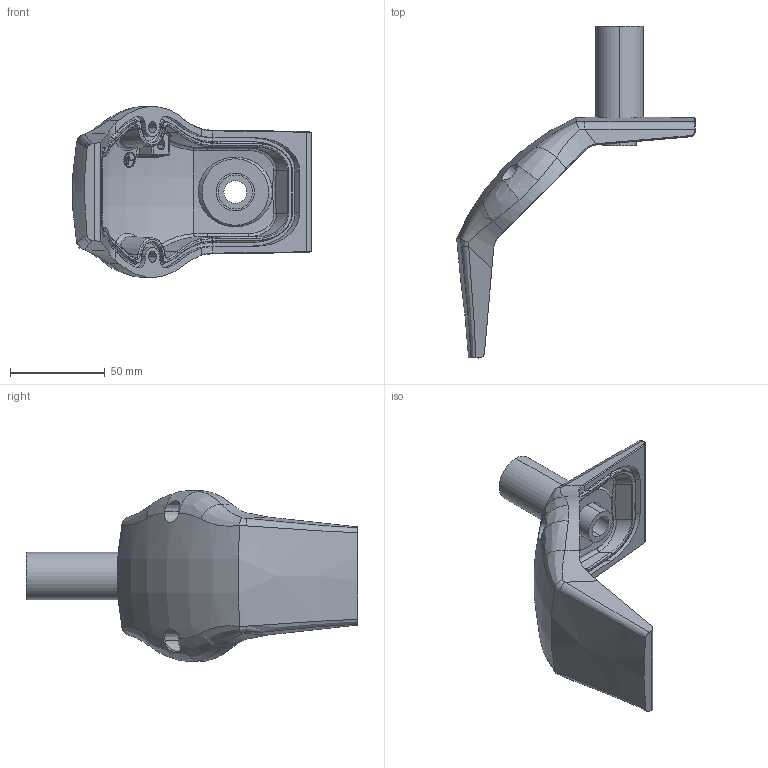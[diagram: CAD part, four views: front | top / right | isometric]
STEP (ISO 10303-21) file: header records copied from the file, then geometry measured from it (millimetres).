
FILE_DESCRIPTION (( 'STEP AP203' ), '1' );
FILE_NAME ('s1mslare.STEP', '2015-11-10T20:52:00', ( '' ), ( '' ), 'SwSTEP 2.0', 'SolidWorks 2014', '' );
FILE_SCHEMA (( 'CONFIG_CONTROL_DESIGN' ));
Length unit declared in the file: millimetre
Products named in the file (3): 89129136; 89129140; s1mslare
Assembly tree (2 placements, depth 2):
  s1mslare
    89129136
    89129140
Bounding box: 125.59 x 174.7 x 89.88 mm (x, y, z)
Volume: 112008.1 mm3; surface area: 49987.7 mm2
Topology: 2 solids, 2 shells, 395 faces, 970 edges, 583 vertices
Faces by surface type: bspline 138, cylinder 117, plane 61, torus 47, cone 29, sphere 3
Entity records: 23461 total; most frequent: CARTESIAN_POINT 15006, ORIENTED_EDGE 1926, DIRECTION 1469, EDGE_CURVE 963, AXIS2_PLACEMENT_3D 622, VERTEX_POINT 582, EDGE_LOOP 413, ADVANCED_FACE 395
